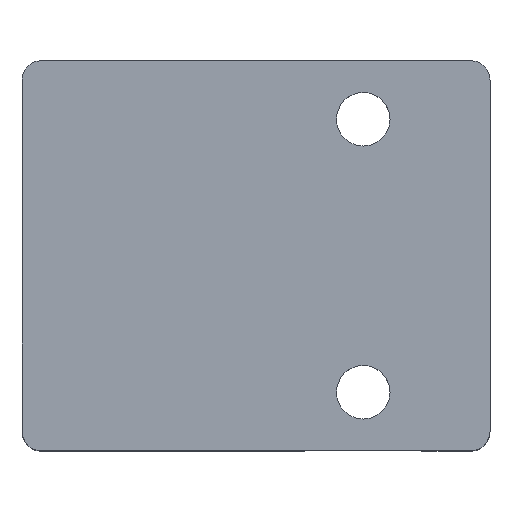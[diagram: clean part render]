
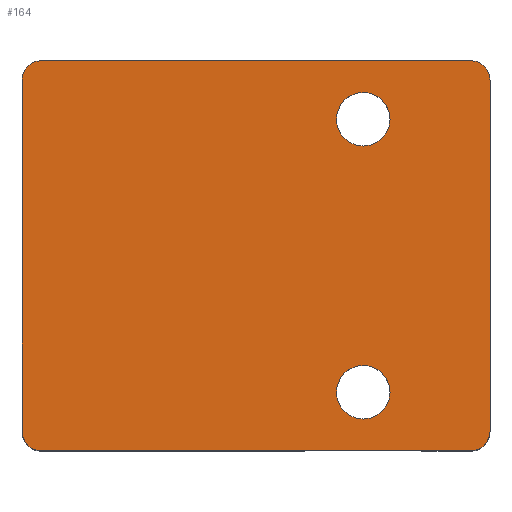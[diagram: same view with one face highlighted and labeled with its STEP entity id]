
A CAD part, top view. The second image highlights one B-rep face of the part: STEP entity #164.
In plain terms, the highlighted planar face has unit normal (0, 0, 1).
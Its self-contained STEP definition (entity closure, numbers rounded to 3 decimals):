
#164=ADVANCED_FACE('',(#310,#311,#312),#204,.T.);
#204=PLANE('',#744);
#218=LINE('',#1035,#264);
#219=LINE('',#1040,#265);
#220=LINE('',#1044,#266);
#221=LINE('',#1048,#267);
#264=VECTOR('',#824,1.);
#265=VECTOR('',#827,1.);
#266=VECTOR('',#830,1.);
#267=VECTOR('',#833,1.);
#310=FACE_BOUND('',#329,.T.);
#311=FACE_BOUND('',#330,.T.);
#312=FACE_BOUND('',#331,.T.);
#329=EDGE_LOOP('',(#379));
#330=EDGE_LOOP('',(#380,#381,#382,#383,#384,#385,#386,#387));
#331=EDGE_LOOP('',(#388));
#379=ORIENTED_EDGE('',*,*,#611,.F.);
#380=ORIENTED_EDGE('',*,*,#612,.T.);
#381=ORIENTED_EDGE('',*,*,#613,.T.);
#382=ORIENTED_EDGE('',*,*,#614,.T.);
#383=ORIENTED_EDGE('',*,*,#615,.T.);
#384=ORIENTED_EDGE('',*,*,#616,.T.);
#385=ORIENTED_EDGE('',*,*,#617,.T.);
#386=ORIENTED_EDGE('',*,*,#618,.T.);
#387=ORIENTED_EDGE('',*,*,#619,.T.);
#388=ORIENTED_EDGE('',*,*,#620,.T.);
#555=VERTEX_POINT('',#1034);
#556=VERTEX_POINT('',#1036);
#557=VERTEX_POINT('',#1037);
#558=VERTEX_POINT('',#1039);
#559=VERTEX_POINT('',#1041);
#560=VERTEX_POINT('',#1043);
#561=VERTEX_POINT('',#1045);
#562=VERTEX_POINT('',#1047);
#563=VERTEX_POINT('',#1049);
#564=VERTEX_POINT('',#1052);
#611=EDGE_CURVE('',#555,#555,#699,.T.);
#612=EDGE_CURVE('',#556,#557,#218,.T.);
#613=EDGE_CURVE('',#557,#558,#700,.T.);
#614=EDGE_CURVE('',#558,#559,#219,.T.);
#615=EDGE_CURVE('',#559,#560,#701,.T.);
#616=EDGE_CURVE('',#560,#561,#220,.T.);
#617=EDGE_CURVE('',#561,#562,#702,.T.);
#618=EDGE_CURVE('',#562,#563,#221,.T.);
#619=EDGE_CURVE('',#563,#556,#703,.T.);
#620=EDGE_CURVE('',#564,#564,#704,.T.);
#699=CIRCLE('',#738,2.75);
#700=CIRCLE('',#739,2.);
#701=CIRCLE('',#740,2.);
#702=CIRCLE('',#741,2.);
#703=CIRCLE('',#742,2.);
#704=CIRCLE('',#743,2.75);
#738=AXIS2_PLACEMENT_3D('',#1033,#822,#823);
#739=AXIS2_PLACEMENT_3D('',#1038,#825,#826);
#740=AXIS2_PLACEMENT_3D('',#1042,#828,#829);
#741=AXIS2_PLACEMENT_3D('',#1046,#831,#832);
#742=AXIS2_PLACEMENT_3D('',#1050,#834,#835);
#743=AXIS2_PLACEMENT_3D('',#1051,#836,#837);
#744=AXIS2_PLACEMENT_3D('',#1053,#838,#839);
#822=DIRECTION('',(0.,0.,1.));
#823=DIRECTION('',(-1.,0.,0.));
#824=DIRECTION('',(-1.,0.,0.));
#825=DIRECTION('',(0.,0.,1.));
#826=DIRECTION('',(1.,0.,0.));
#827=DIRECTION('',(0.,-1.,0.));
#828=DIRECTION('',(0.,0.,1.));
#829=DIRECTION('',(1.,0.,0.));
#830=DIRECTION('',(1.,0.,0.));
#831=DIRECTION('',(0.,0.,1.));
#832=DIRECTION('',(1.,0.,0.));
#833=DIRECTION('',(0.,1.,0.));
#834=DIRECTION('',(0.,0.,1.));
#835=DIRECTION('',(1.,0.,0.));
#836=DIRECTION('',(0.,0.,-1.));
#837=DIRECTION('',(-1.,0.,0.));
#838=DIRECTION('',(0.,0.,1.));
#839=DIRECTION('',(1.,0.,0.));
#1033=CARTESIAN_POINT('',(11.,14.,30.));
#1034=CARTESIAN_POINT('',(8.25,14.,30.));
#1035=CARTESIAN_POINT('',(22.,20.,30.));
#1036=CARTESIAN_POINT('',(22.,20.,30.));
#1037=CARTESIAN_POINT('',(-22.,20.,30.));
#1038=CARTESIAN_POINT('',(-22.,18.,30.));
#1039=CARTESIAN_POINT('',(-24.,18.,30.));
#1040=CARTESIAN_POINT('',(-24.,18.,30.));
#1041=CARTESIAN_POINT('',(-24.,-18.,30.));
#1042=CARTESIAN_POINT('',(-22.,-18.,30.));
#1043=CARTESIAN_POINT('',(-22.,-20.,30.));
#1044=CARTESIAN_POINT('',(-22.,-20.,30.));
#1045=CARTESIAN_POINT('',(22.,-20.,30.));
#1046=CARTESIAN_POINT('',(22.,-18.,30.));
#1047=CARTESIAN_POINT('',(24.,-18.,30.));
#1048=CARTESIAN_POINT('',(24.,-18.,30.));
#1049=CARTESIAN_POINT('',(24.,18.,30.));
#1050=CARTESIAN_POINT('',(22.,18.,30.));
#1051=CARTESIAN_POINT('',(11.,-14.,30.));
#1052=CARTESIAN_POINT('',(8.25,-14.,30.));
#1053=CARTESIAN_POINT('',(-22.,18.,30.));
